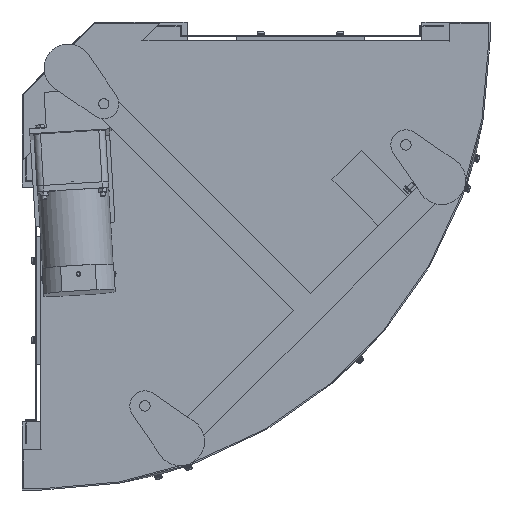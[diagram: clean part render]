
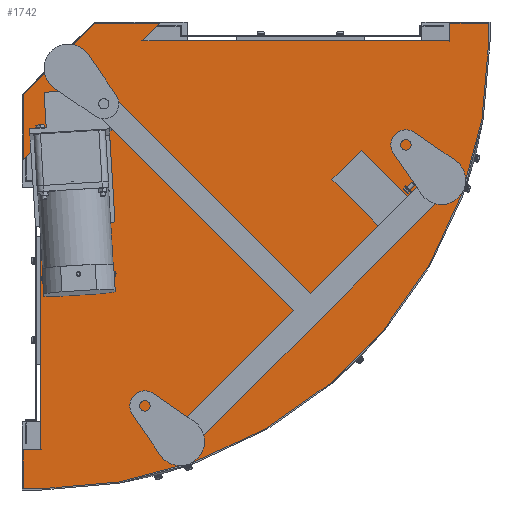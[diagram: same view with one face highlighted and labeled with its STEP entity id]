
A CAD part, front view. The second image highlights one B-rep face of the part: STEP entity #1742.
In plain terms, the highlighted planar face has unit normal (0, -1, 0).
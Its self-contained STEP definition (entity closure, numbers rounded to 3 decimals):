
#1742=ADVANCED_FACE('',(#2814),#2813,.F.);
#2813=PLANE('',#12870);
#2814=FACE_OUTER_BOUND('',#12871,.T.);
#12867=CARTESIAN_POINT('',(-33.4,-143.5,-241.5));
#12868=DIRECTION('',(0.,1.,0.));
#12869=DIRECTION('',(0.,0.,1.));
#12870=AXIS2_PLACEMENT_3D('',#12867,#12868,#12869);
#12871=EDGE_LOOP('',(#20568,#20569,#20570,#20571,#20572,#20573,#20574,#20575,#20576,#20577,#20578,#20579,#20580,#20581,#20582,#20583));
#20568=ORIENTED_EDGE('',*,*,#25374,.F.);
#20569=ORIENTED_EDGE('',*,*,#25375,.F.);
#20570=ORIENTED_EDGE('',*,*,#25376,.T.);
#20571=ORIENTED_EDGE('',*,*,#25377,.T.);
#20572=ORIENTED_EDGE('',*,*,#25378,.T.);
#20573=ORIENTED_EDGE('',*,*,#25379,.T.);
#20574=ORIENTED_EDGE('',*,*,#25380,.T.);
#20575=ORIENTED_EDGE('',*,*,#25381,.F.);
#20576=ORIENTED_EDGE('',*,*,#25382,.F.);
#20577=ORIENTED_EDGE('',*,*,#25383,.T.);
#20578=ORIENTED_EDGE('',*,*,#25384,.T.);
#20579=ORIENTED_EDGE('',*,*,#25385,.T.);
#20580=ORIENTED_EDGE('',*,*,#25386,.T.);
#20581=ORIENTED_EDGE('',*,*,#25387,.T.);
#20582=ORIENTED_EDGE('',*,*,#25388,.T.);
#20583=ORIENTED_EDGE('',*,*,#25389,.T.);
#25374=EDGE_CURVE('',#27969,#27970,#27971,.T.);
#25375=EDGE_CURVE('',#27977,#27969,#27978,.T.);
#25376=EDGE_CURVE('',#27977,#27984,#27985,.T.);
#25377=EDGE_CURVE('',#27984,#27991,#27992,.T.);
#25378=EDGE_CURVE('',#27991,#27998,#27999,.T.);
#25379=EDGE_CURVE('',#27998,#28005,#28006,.T.);
#25380=EDGE_CURVE('',#28005,#28012,#28013,.T.);
#25381=EDGE_CURVE('',#28019,#28012,#28020,.T.);
#25382=EDGE_CURVE('',#28026,#28019,#28027,.T.);
#25383=EDGE_CURVE('',#28026,#28033,#28034,.T.);
#25384=EDGE_CURVE('',#28033,#28040,#28041,.T.);
#25385=EDGE_CURVE('',#28040,#28047,#28048,.T.);
#25386=EDGE_CURVE('',#28047,#28054,#28055,.T.);
#25387=EDGE_CURVE('',#28054,#28061,#28062,.T.);
#25388=EDGE_CURVE('',#28061,#28068,#28069,.T.);
#25389=EDGE_CURVE('',#28068,#27970,#28075,.T.);
#27969=VERTEX_POINT('',#44273);
#27970=VERTEX_POINT('',#44274);
#27971=CIRCLE('',#44278,512.5);
#27977=VERTEX_POINT('',#44279);
#27978=LINE('',#44280,#44281);
#27984=VERTEX_POINT('',#44283);
#27985=LINE('',#44284,#44285);
#27991=VERTEX_POINT('',#44287);
#27992=LINE('',#44288,#44289);
#27998=VERTEX_POINT('',#44291);
#27999=LINE('',#44292,#44293);
#28005=VERTEX_POINT('',#44295);
#28006=LINE('',#44296,#44297);
#28012=VERTEX_POINT('',#44299);
#28013=LINE('',#44300,#44301);
#28019=VERTEX_POINT('',#44303);
#28020=LINE('',#44304,#44305);
#28026=VERTEX_POINT('',#44307);
#28027=CIRCLE('',#44311,512.5);
#28033=VERTEX_POINT('',#44312);
#28034=LINE('',#44313,#44314);
#28040=VERTEX_POINT('',#44316);
#28041=LINE('',#44317,#44318);
#28047=VERTEX_POINT('',#44320);
#28048=LINE('',#44321,#44322);
#28054=VERTEX_POINT('',#44324);
#28055=CIRCLE('',#44328,561.5);
#28061=VERTEX_POINT('',#44329);
#28062=LINE('',#44330,#44331);
#28068=VERTEX_POINT('',#44333);
#28069=LINE('',#44334,#44335);
#28075=LINE('',#44337,#44338);
#44273=CARTESIAN_POINT('',(512.497,-143.5,331.621));
#44274=CARTESIAN_POINT('',(512.5,-143.5,330.));
#44275=CARTESIAN_POINT('',(0.,-143.5,330.));
#44276=DIRECTION('',(0.,1.,0.));
#44277=DIRECTION('',(0.,0.,-1.));
#44278=AXIS2_PLACEMENT_3D('',#44275,#44276,#44277);
#44279=CARTESIAN_POINT('',(125.775,-143.5,331.675));
#44280=CARTESIAN_POINT('',(125.775,-143.5,331.675));
#44281=VECTOR('',#44282,386.723);
#44282=DIRECTION('',(1.,0.,0.));
#44283=CARTESIAN_POINT('',(147.5,-143.5,353.4));
#44284=CARTESIAN_POINT('',(125.775,-143.5,331.675));
#44285=VECTOR('',#44286,30.724);
#44286=DIRECTION('',(0.707,0.,0.707));
#44287=CARTESIAN_POINT('',(66.663,-143.5,353.4));
#44288=CARTESIAN_POINT('',(147.5,-143.5,353.4));
#44289=VECTOR('',#44290,80.837);
#44290=DIRECTION('',(-1.,0.,0.));
#44291=CARTESIAN_POINT('',(-23.4,-143.5,263.337));
#44292=CARTESIAN_POINT('',(66.663,-143.5,353.4));
#44293=VECTOR('',#44294,127.368);
#44294=DIRECTION('',(-0.707,0.,-0.707));
#44295=CARTESIAN_POINT('',(-23.4,-143.5,182.5));
#44296=CARTESIAN_POINT('',(-23.4,-143.5,263.337));
#44297=VECTOR('',#44298,80.837);
#44298=DIRECTION('',(0.,0.,-1.));
#44299=CARTESIAN_POINT('',(-1.675,-143.5,204.225));
#44300=CARTESIAN_POINT('',(-23.4,-143.5,182.5));
#44301=VECTOR('',#44302,30.724);
#44302=DIRECTION('',(0.707,0.,0.707));
#44303=CARTESIAN_POINT('',(-1.621,-143.5,-182.497));
#44304=CARTESIAN_POINT('',(-1.621,-143.5,-182.497));
#44305=VECTOR('',#44306,386.723);
#44306=DIRECTION('',(0.,0.,1.));
#44307=CARTESIAN_POINT('',(0.,-143.5,-182.5));
#44308=CARTESIAN_POINT('',(0.,-143.5,330.));
#44309=DIRECTION('',(0.,1.,0.));
#44310=DIRECTION('',(0.,0.,-1.));
#44311=AXIS2_PLACEMENT_3D('',#44308,#44309,#44310);
#44312=CARTESIAN_POINT('',(-23.4,-143.5,-182.5));
#44313=CARTESIAN_POINT('',(0.,-143.5,-182.5));
#44314=VECTOR('',#44315,23.4);
#44315=DIRECTION('',(-1.,0.,0.));
#44316=CARTESIAN_POINT('',(-23.4,-143.5,-231.5));
#44317=CARTESIAN_POINT('',(-23.4,-143.5,-182.5));
#44318=VECTOR('',#44319,49.);
#44319=DIRECTION('',(0.,0.,-1.));
#44320=CARTESIAN_POINT('',(0.,-143.5,-231.5));
#44321=CARTESIAN_POINT('',(-23.4,-143.5,-231.5));
#44322=VECTOR('',#44323,23.4);
#44323=DIRECTION('',(1.,0.,0.));
#44324=CARTESIAN_POINT('',(561.5,-143.5,330.));
#44325=CARTESIAN_POINT('',(0.,-143.5,330.));
#44326=DIRECTION('',(0.,-1.,0.));
#44327=DIRECTION('',(0.,0.,-1.));
#44328=AXIS2_PLACEMENT_3D('',#44325,#44326,#44327);
#44329=CARTESIAN_POINT('',(561.5,-143.5,353.4));
#44330=CARTESIAN_POINT('',(561.5,-143.5,330.));
#44331=VECTOR('',#44332,23.4);
#44332=DIRECTION('',(0.,0.,1.));
#44333=CARTESIAN_POINT('',(512.5,-143.5,353.4));
#44334=CARTESIAN_POINT('',(561.5,-143.5,353.4));
#44335=VECTOR('',#44336,49.);
#44336=DIRECTION('',(-1.,0.,0.));
#44337=CARTESIAN_POINT('',(512.5,-143.5,353.4));
#44338=VECTOR('',#44339,23.4);
#44339=DIRECTION('',(0.,0.,-1.));
